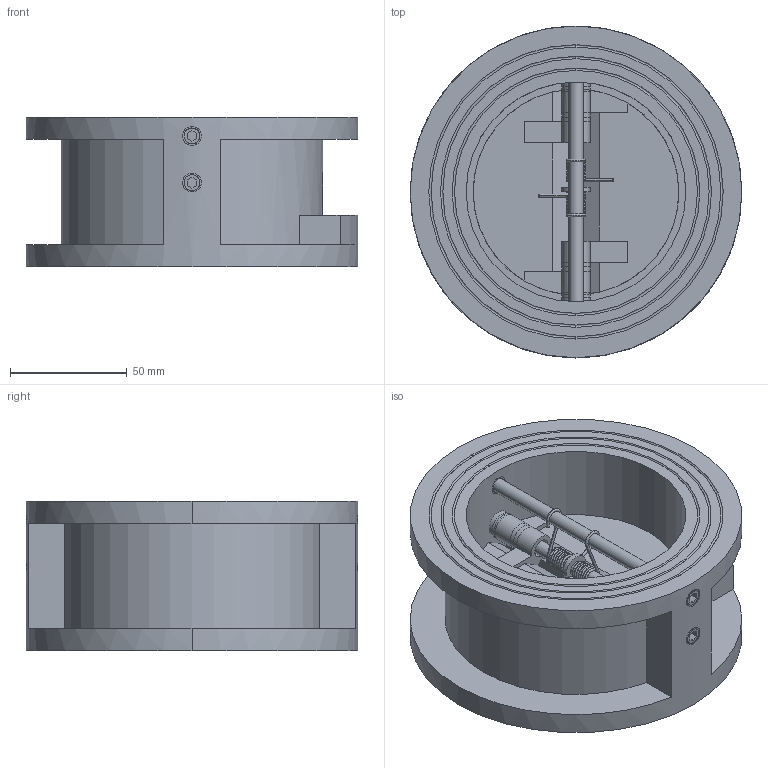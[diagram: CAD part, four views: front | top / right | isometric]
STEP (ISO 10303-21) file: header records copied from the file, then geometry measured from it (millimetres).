
FILE_DESCRIPTION((''),'2;1');
FILE_NAME('CV-16WS_SB_ASM','2026-03-23T',('user'),(''),'PRO/ENGINEER BY PARAMETRIC TECHNOLOGY CORPORATION, 2011220','PRO/ENGINEER BY PARAMETRIC TECHNOLOGY CORPORATION, 2011220','');
FILE_SCHEMA(('CONFIG_CONTROL_DESIGN'));
Length unit declared in the file: millimetre
Products named in the file (10): CV-16WS_KORPUS; CV-16WS_DET_2; CV-16WS_DET_3; CV-16WS_DET_4_SHTOK; CV-16WS_DET_5; CV-16WS_DET_6; CV-16WS_DET_7; CV-16WS_DET_8; CV-16WS_DET_9; CV-16WS_SB_ASM
Assembly tree (26 placements, depth 2):
  CV-16WS_SB_ASM
    CV-16WS_KORPUS
    CV-16WS_DET_2  x2
    CV-16WS_DET_3  x2
    CV-16WS_DET_4_SHTOK  x2
    CV-16WS_DET_5  x5
    CV-16WS_DET_6  x4
    CV-16WS_DET_7  x4
    CV-16WS_DET_8  x4
    CV-16WS_DET_9  x2
Bounding box: 142 x 142 x 64 mm (x, y, z)
Volume: 468766.4 mm3; surface area: 127755.7 mm2
Topology: 26 solids, 34 shells, 331 faces, 766 edges, 502 vertices
Faces by surface type: plane 155, cylinder 134, torus 24, bspline 8, cone 6, revolution 4
Entity records: 8480 total; most frequent: CARTESIAN_POINT 3841, DIRECTION 981, ORIENTED_EDGE 840, EDGE_CURVE 434, AXIS2_PLACEMENT_3D 394, VERTEX_POINT 285, EDGE_LOOP 219, VECTOR 191
